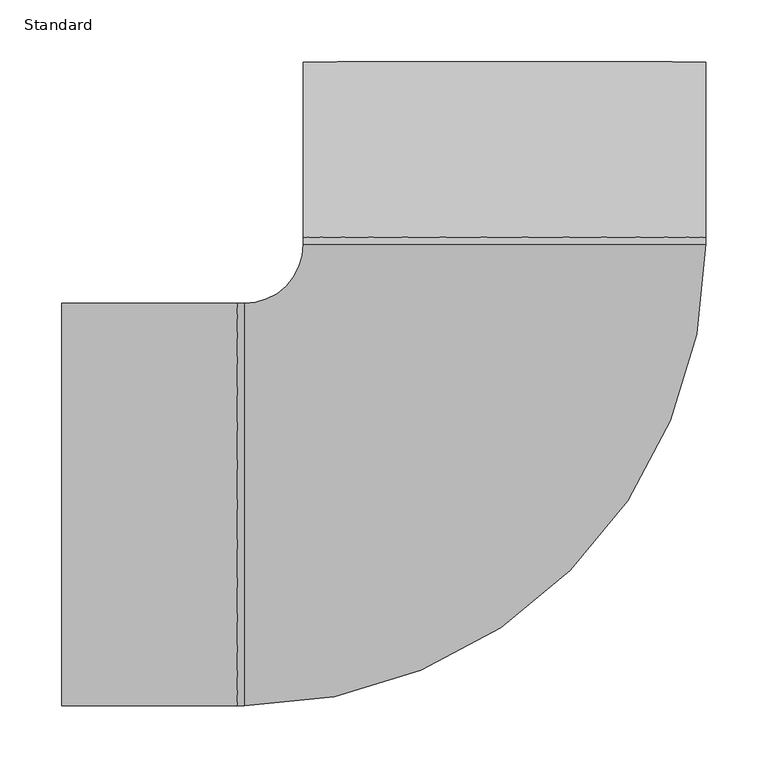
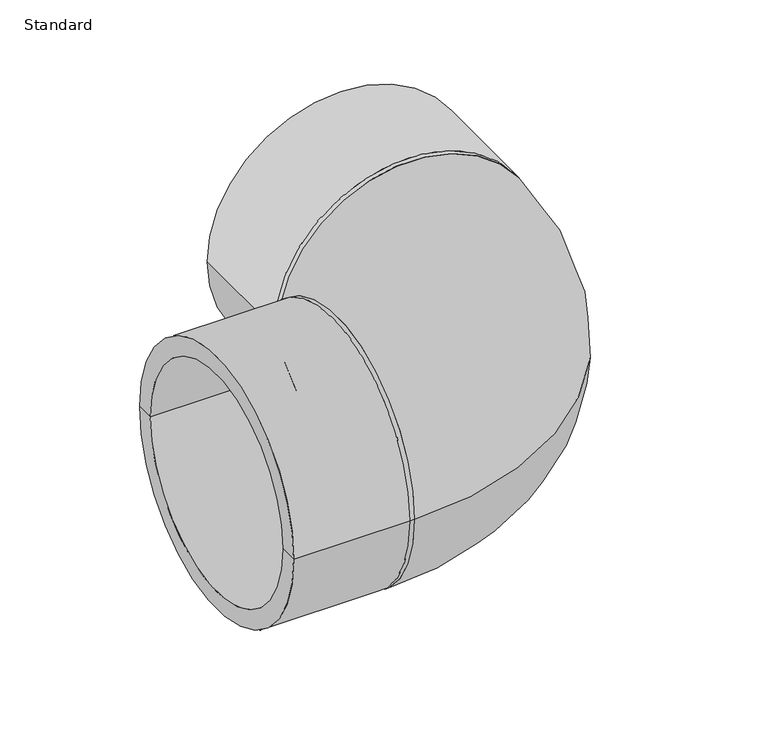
"""IFC4 building model written with IfcOpenShell, lengths in millimetres: pipe fitting geometry, Durapipe_PipeFitting_PVC_Elbow90deg_225To315 : Standard."""

from ifc_helpers import new_model, si_unit, point, frame, origin, place, context, project, spatial, polyline, circle_curve, ellipse_curve, trimmed, source, transform, mapped, element, save
from ifc_brep_helpers import plane_surface, cylinder_surface, revolved_surface, advanced_brep


def standard_87301c97(model_context):
    return source(origin(), model_context, "Body", "AdvancedBrep", [
        advanced_brep(
        [(162.5, 215.5, 0.0), (-162.5, 215.5, 0.0), (-162.5, 357.0, 0.0), (162.5, 357.0, 0.0), (162.2, 210.0, 0.0), (-162.2, 210.0, 0.0), (-140.0, 357.0, 0.0), (140.0, 357.0, 0.0), (140.0, 215.5, 0.0), (-140.0, 215.5, 0.0), (0.0, 215.5, 0.0), (0.0, 210.0, 0.0)],
        [
            (0, 1, circle_curve(frame((0.0, 215.5, 0.0), z_axis=(0.0, 1.0, 0.0), x_axis=(-1.0, 0.0, 0.0)), 162.5)),
            (1, 2),
            (2, 3, circle_curve(frame((0.0, 357.0, 0.0), z_axis=(0.0, -1.0, 0.0), x_axis=(-1.0, 0.0, 0.0)), 162.5)),
            (3, 0),
            (1, 0, circle_curve(frame((0.0, 215.5, 0.0), z_axis=(0.0, 1.0, 0.0), x_axis=(-1.0, 0.0, 0.0)), 162.5)),
            (3, 2, circle_curve(frame((0.0, 357.0, 0.0), z_axis=(0.0, -1.0, 0.0), x_axis=(-1.0, 0.0, 0.0)), 162.5)),
            (0, 4),
            (4, 5, circle_curve(frame((0.0, 210.0, 0.0), z_axis=(0.0, 1.0, 0.0), x_axis=(-1.0, 0.0, 0.0)), 162.2)),
            (5, 1),
            (5, 4, circle_curve(frame((0.0, 210.0, 0.0), z_axis=(0.0, 1.0, 0.0), x_axis=(-1.0, 0.0, 0.0)), 162.2)),
            (2, 6),
            (6, 7, circle_curve(frame((0.0, 357.0, 0.0), z_axis=(0.0, -1.0, 0.0), x_axis=(-1.0, 0.0, 0.0)), 140.0)),
            (7, 3),
            (7, 6, circle_curve(frame((0.0, 357.0, 0.0), z_axis=(0.0, -1.0, 0.0), x_axis=(-1.0, 0.0, 0.0)), 140.0)),
            (8, 9, circle_curve(frame((0.0, 215.5, 0.0), z_axis=(0.0, 1.0, 0.0), x_axis=(-1.0, 0.0, 0.0)), 140.0)),
            (9, 10),
            (10, 8),
            (9, 8, circle_curve(frame((0.0, 215.5, 0.0), z_axis=(0.0, 1.0, 0.0), x_axis=(-1.0, 0.0, 0.0)), 140.0)),
            (6, 9),
            (8, 7),
            (4, 11),
            (11, 5),
        ],
        [
            cylinder_surface(frame((0.0, 2300.0, 0.0), z_axis=(0.0, -1.0, 0.0), x_axis=(-1.0, 0.0, 0.0)), 162.5),
            revolved_surface(polyline([(-162.5, 215.5, 0.0), (-162.2, 210.0, 0.0)]), (0.0, 2300.0, 0.0), (0.0, -1.0, 0.0)),
            plane_surface(frame((0.0, 357.0, 0.0), z_axis=(0.0, 1.0, 0.0), x_axis=(-1.0, 0.0, 0.0))),
            plane_surface(frame((0.0, 215.5, 0.0), z_axis=(0.0, 1.0, 0.0), x_axis=(-1.0, 0.0, 0.0))),
            revolved_surface(polyline([(-140.0, 215.5, 0.0), (-140.0, 357.0, 0.0)]), (0.0, 2300.0, 0.0), (0.0, -1.0, 0.0)),
            plane_surface(frame((0.0, 210.0, 0.0), z_axis=(0.0, -1.0, 0.0), x_axis=(-1.0, 0.0, 0.0))),
        ],
        [
            (0, [[1, 2, 3, 4]]),
            (0, [[-2, 5, -4, 6]]),
            (1, [[-1, 7, 8, 9]]),
            (1, [[-5, -9, 10, -7]]),
            (2, [[-3, 11, 12, 13]]),
            (2, [[-6, -13, 14, -11]]),
            (3, [[15, 16, 17]]),
            (3, [[-16, 18, -17]]),
            (4, [[-12, 19, -15, 20]]),
            (4, [[-14, -20, -18, -19]]),
            (5, [[-8, 21, 22]]),
            (5, [[-10, -22, -21]]),
        ],
    ),
        advanced_brep(
        [(-357.0, -140.0, 0.0), (-357.0, 140.0, 0.0), (-357.0, 162.5, 0.0), (-357.0, -162.5, 0.0), (-210.0, 162.2, 0.0), (-210.0, -162.2, 0.0), (-215.5, -162.5, 0.0), (-215.5, 162.5, 0.0), (-215.5, -140.0, 0.0), (-215.5, 140.0, 0.0), (-215.5, 0.0, 0.0), (-210.0, 0.0, 0.0)],
        [
            (0, 1, circle_curve(frame((-357.0, 0.0, 0.0), z_axis=(1.0, 0.0, 0.0), x_axis=(0.0, 1.0, 0.0)), 140.0)),
            (1, 2),
            (2, 3, circle_curve(frame((-357.0, 0.0, 0.0), z_axis=(-1.0, 0.0, 0.0), x_axis=(0.0, 1.0, 0.0)), 162.5)),
            (3, 0),
            (1, 0, circle_curve(frame((-357.0, 0.0, 0.0), z_axis=(1.0, 0.0, 0.0), x_axis=(0.0, 1.0, 0.0)), 140.0)),
            (3, 2, circle_curve(frame((-357.0, 0.0, 0.0), z_axis=(-1.0, 0.0, 0.0), x_axis=(0.0, 1.0, 0.0)), 162.5)),
            (4, 5, circle_curve(frame((-210.0, 0.0, 0.0), z_axis=(-1.0, 0.0, 0.0), x_axis=(0.0, 1.0, 0.0)), 162.2)),
            (5, 6),
            (6, 7, circle_curve(frame((-215.5, 0.0, 0.0), z_axis=(1.0, 0.0, 0.0), x_axis=(0.0, 1.0, 0.0)), 162.5)),
            (7, 4),
            (5, 4, circle_curve(frame((-210.0, 0.0, 0.0), z_axis=(-1.0, 0.0, 0.0), x_axis=(0.0, 1.0, 0.0)), 162.2)),
            (7, 6, circle_curve(frame((-215.5, 0.0, 0.0), z_axis=(1.0, 0.0, 0.0), x_axis=(0.0, 1.0, 0.0)), 162.5)),
            (2, 7),
            (6, 3),
            (0, 8),
            (8, 9, circle_curve(frame((-215.5, 0.0, 0.0), z_axis=(1.0, 0.0, 0.0), x_axis=(0.0, 1.0, 0.0)), 140.0)),
            (9, 1),
            (9, 8, circle_curve(frame((-215.5, 0.0, 0.0), z_axis=(1.0, 0.0, 0.0), x_axis=(0.0, 1.0, 0.0)), 140.0)),
            (8, 10),
            (10, 9),
            (4, 11),
            (11, 5),
        ],
        [
            plane_surface(frame((-357.0, 0.0, 0.0), z_axis=(-1.0, 0.0, 0.0), x_axis=(0.0, 1.0, 0.0))),
            revolved_surface(polyline([(-210.0, 162.2, 0.0), (-215.5, 162.5, 0.0)]), (2149.5, 0.0, 0.0), (-1.0, 0.0, 0.0)),
            cylinder_surface(frame((2149.5, 0.0, 0.0), z_axis=(-1.0, 0.0, 0.0), x_axis=(0.0, 1.0, 0.0)), 162.5),
            revolved_surface(polyline([(-357.0, 140.0, 0.0), (-215.5, 140.0, 0.0)]), (2149.5, 0.0, 0.0), (-1.0, 0.0, 0.0)),
            plane_surface(frame((-215.5, 0.0, 0.0), z_axis=(-1.0, 0.0, 0.0), x_axis=(0.0, 1.0, 0.0))),
            plane_surface(frame((-210.0, 0.0, 0.0), z_axis=(1.0, 0.0, 0.0), x_axis=(0.0, 1.0, 0.0))),
        ],
        [
            (0, [[1, 2, 3, 4]]),
            (0, [[-2, 5, -4, 6]]),
            (1, [[7, 8, 9, 10]]),
            (1, [[11, -10, 12, -8]]),
            (2, [[-3, 13, -9, 14]]),
            (2, [[-6, -14, -12, -13]]),
            (3, [[-1, 15, 16, 17]]),
            (3, [[-5, -17, 18, -15]]),
            (4, [[-16, 19, 20]]),
            (4, [[-18, -20, -19]]),
            (5, [[-7, 21, 22]]),
            (5, [[-21, -11, -22]]),
        ],
    ),
        advanced_brep(
        [(-162.2, 210.0, 0.0), (-210.0, 162.2, 0.0), (-210.0, -162.2, 0.0), (162.2, 210.0, 0.0)],
        [
            (0, 1, circle_curve(frame((-210.0, 210.0, 0.0), z_axis=(0.0, 0.0, -1.0), x_axis=(0.0, -1.0, 0.0)), 47.8)),
            (1, 2, circle_curve(frame((-210.0, 0.0, 0.0), z_axis=(1.0, 0.0, 0.0), x_axis=(0.0, 1.0, 0.0)), 162.2)),
            (2, 3, circle_curve(frame((-210.0, 210.0, 0.0), z_axis=(0.0, 0.0, 1.0), x_axis=(0.0, -1.0, 0.0)), 372.2)),
            (3, 0, circle_curve(frame((0.0, 210.0, 0.0), z_axis=(0.0, -1.0, 0.0), x_axis=(-1.0, 0.0, 0.0)), 162.2)),
            (2, 1, circle_curve(frame((-210.0, 0.0, 0.0), z_axis=(1.0, 0.0, 0.0), x_axis=(0.0, 1.0, 0.0)), 162.2)),
            (0, 3, circle_curve(frame((0.0, 210.0, 0.0), z_axis=(0.0, -1.0, 0.0), x_axis=(-1.0, 0.0, 0.0)), 162.2)),
        ],
        [
            revolved_surface(trimmed(ellipse_curve(frame((-210.0, 0.0, 0.0), z_axis=(-1.0, 0.0, 0.0), x_axis=(0.0, 1.0, 0.0)), 162.2, 162.2), [point((-210.0, -162.2, 0.0))], [point((-210.0, 162.2, 0.0))], True, "CARTESIAN"), (-210.0, 210.0, 0.0), (0.0, 0.0, 1.0)),
            revolved_surface(trimmed(ellipse_curve(frame((-210.0, 0.0, 0.0), z_axis=(-1.0, 0.0, 0.0), x_axis=(0.0, 1.0, 0.0)), 162.2, 162.2), [point((-210.0, 162.2, 0.0))], [point((-210.0, -162.2, 0.0))], True, "CARTESIAN"), (-210.0, 210.0, 0.0), (0.0, 0.0, 1.0)),
            plane_surface(frame((-210.0, 0.0, 0.0), z_axis=(-1.0, 0.0, 0.0), x_axis=(0.0, 0.0, 1.0))),
            plane_surface(frame((0.0, 210.0, 0.0), z_axis=(0.0, 1.0, 0.0), x_axis=(0.0, 0.0, 1.0))),
        ],
        [
            (0, [[1, 2, 3, 4]]),
            (1, [[-3, 5, -1, 6]]),
            (2, [[-2, -5]]),
            (3, [[-6, -4]]),
        ],
    ),
    ])


if __name__ == "__main__":
    model = new_model("IFC4")
    model_context = context("Model", 3, world=origin())
    ifc_project = project(units=[si_unit("LENGTHUNIT", "METRE", prefix="MILLI")], contexts=[model_context])
    site = spatial("IfcSite", under=ifc_project)
    building = spatial("IfcBuilding", under=site)
    placement = place(None, origin())
    standard_shape = standard_87301c97(model_context)
    element("IfcPipeFitting", 1, ObjectType="Durapipe_PipeFitting_PVC_Elbow90deg_225To315 : Standard", at=placement, inside=building, context=model_context, shape_type="MappedRepresentation", body=[
        mapped(standard_shape, transform((0.0, 0.0, 0.0), x_axis=(1.0, 0.0, 0.0), y_axis=(0.0, 1.0, 0.0), z_axis=(0.0, 0.0, 1.0))),
    ])
    save(model, "model.ifc")
